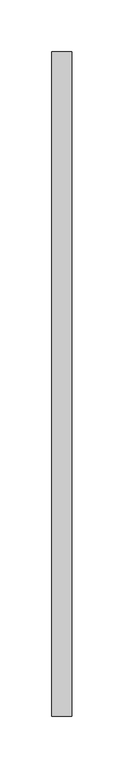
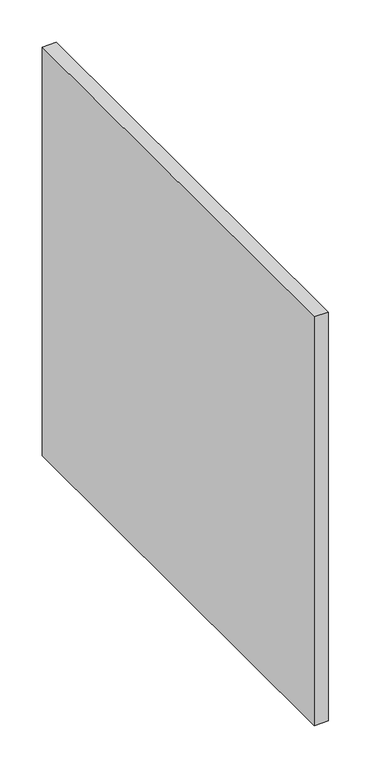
"""IFC4 building model written with IfcOpenShell, lengths in millimetres: proxy geometry, BASYS^CREDENZA 1_INTERNAL DETAILS-RT PART."""

from ifc_helpers import new_model, si_unit, frame, origin, place, context, project, spatial, polyline, outline, extrude, source, transform, mapped, element, save


def generic_models_1e92318b(model_context):
    return source(origin(), model_context, "Body", "SweptSolid", [
        extrude(outline(polyline([(1814.5125, -28.575), (1833.5625, -28.575), (1833.5625, -668.5), (1814.5125, -668.5), (1814.5125, -28.575)])), frame((0.0, 0.0, -615.95), z_axis=(0.0, 0.0, 1.0), x_axis=(1.0, 0.0, 0.0)), (0.0, 0.0, 1.0), 587.375),
    ])


if __name__ == "__main__":
    model = new_model("IFC4")
    model_context = context("Model", 3, world=origin())
    ifc_project = project(units=[si_unit("LENGTHUNIT", "METRE", prefix="MILLI")], contexts=[model_context])
    site = spatial("IfcSite", under=ifc_project)
    building = spatial("IfcBuilding", under=site)
    placement = place(None, origin())
    generic_models_shape = generic_models_1e92318b(model_context)
    element("IfcBuildingElementProxy", 1, Name="BASYS^CREDENZA 1_INTERNAL DETAILS-RT PART", ObjectType="BASYS^CREDENZA 1_INTERNAL DETAILS-RT PART", at=placement, inside=building, context=model_context, shape_type="MappedRepresentation", body=[
        mapped(generic_models_shape, transform((0.0, 0.0, 0.0), x_axis=(1.0, 0.0, 0.0), y_axis=(0.0, 1.0, 0.0), z_axis=(0.0, 0.0, 1.0))),
    ])
    save(model, "model.ifc")
